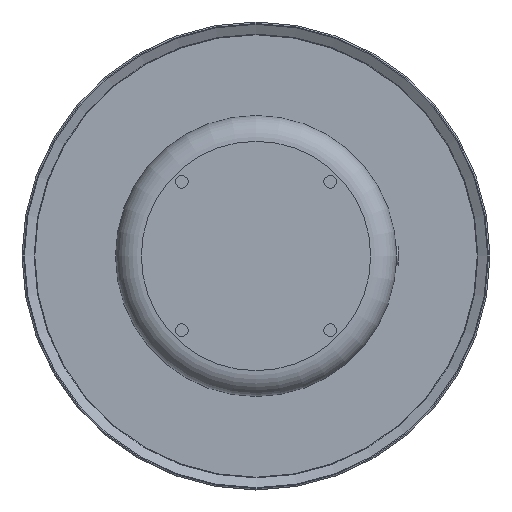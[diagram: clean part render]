
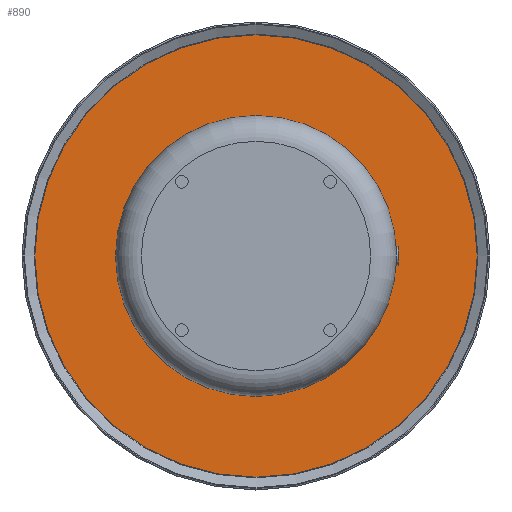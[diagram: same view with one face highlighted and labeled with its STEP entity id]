
A CAD part, front view. The second image highlights one B-rep face of the part: STEP entity #890.
In plain terms, the highlighted planar face has unit normal (0, -1, 0).
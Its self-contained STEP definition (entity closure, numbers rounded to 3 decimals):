
#61=PLANE('',#1052);
#166=FACE_OUTER_BOUND('',#226,.T.);
#226=EDGE_LOOP('',(#759,#760));
#329=CIRCLE('',#1053,142.377);
#330=CIRCLE('',#1054,142.377);
#428=VERTEX_POINT('',#1648);
#429=VERTEX_POINT('',#1649);
#547=EDGE_CURVE('',#428,#429,#329,.T.);
#548=EDGE_CURVE('',#429,#428,#330,.T.);
#759=ORIENTED_EDGE('',*,*,#547,.F.);
#760=ORIENTED_EDGE('',*,*,#548,.F.);
#890=ADVANCED_FACE('',(#166),#61,.T.);
#1052=AXIS2_PLACEMENT_3D('',#1647,#1336,#1337);
#1053=AXIS2_PLACEMENT_3D('',#1650,#1338,#1339);
#1054=AXIS2_PLACEMENT_3D('',#1651,#1340,#1341);
#1336=DIRECTION('center_axis',(0.,-1.,0.));
#1337=DIRECTION('ref_axis',(0.,0.,-1.));
#1338=DIRECTION('center_axis',(0.,1.,0.));
#1339=DIRECTION('ref_axis',(1.,0.,0.));
#1340=DIRECTION('center_axis',(0.,1.,0.));
#1341=DIRECTION('ref_axis',(1.,0.,0.));
#1647=CARTESIAN_POINT('Origin',(-142.377,221.694,0.));
#1648=CARTESIAN_POINT('',(-142.377,221.694,0.));
#1649=CARTESIAN_POINT('',(142.377,221.694,0.));
#1650=CARTESIAN_POINT('Origin',(0.,221.694,
0.));
#1651=CARTESIAN_POINT('Origin',(0.,221.694,
0.));
